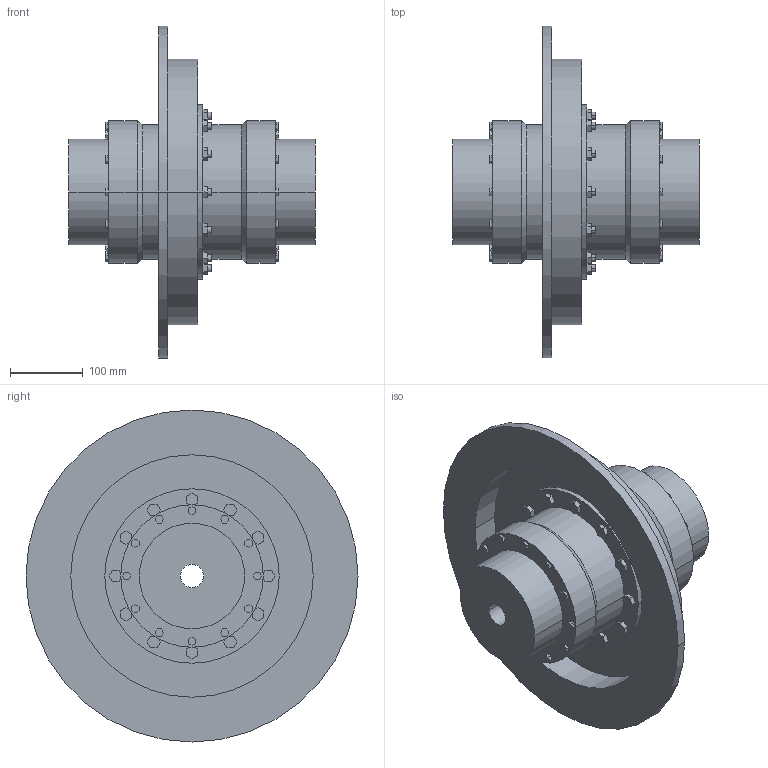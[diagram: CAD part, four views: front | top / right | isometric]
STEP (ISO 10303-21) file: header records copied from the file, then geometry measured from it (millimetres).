
FILE_DESCRIPTION((''),'2;1');
FILE_NAME('A19727200-0_ASM','2019-05-23T',('AB_Roschiwal'),('RENK AG'),'PRO/ENGINEER BY PARAMETRIC TECHNOLOGY CORPORATION, 2015440','PRO/ENGINEER BY PARAMETRIC TECHNOLOGY CORPORATION, 2015440','');
FILE_SCHEMA(('CONFIG_CONTROL_DESIGN'));
Length unit declared in the file: millimetre
Products named in the file (4): SBKT90_GEHAEUSE; SBKT90_NABE; SBKT90_BREMSSCHEIBE; A19727200-0_ASM
Assembly tree (4 placements, depth 2):
  A19727200-0_ASM
    SBKT90_GEHAEUSE
    SBKT90_NABE  x2
    SBKT90_BREMSSCHEIBE
Bounding box: 339 x 457 x 457 mm (x, y, z)
Volume: 8190959.7 mm3; surface area: 985397.6 mm2
Topology: 4 solids, 4 shells, 470 faces, 1156 edges, 768 vertices
Faces by surface type: plane 370, cylinder 96, cone 4
Entity records: 13604 total; most frequent: CARTESIAN_POINT 2350, ORIENTED_EDGE 2264, DIRECTION 2240, EDGE_CURVE 1132, VECTOR 956, LINE 956, VERTEX_POINT 752, AXIS2_PLACEMENT_3D 642
